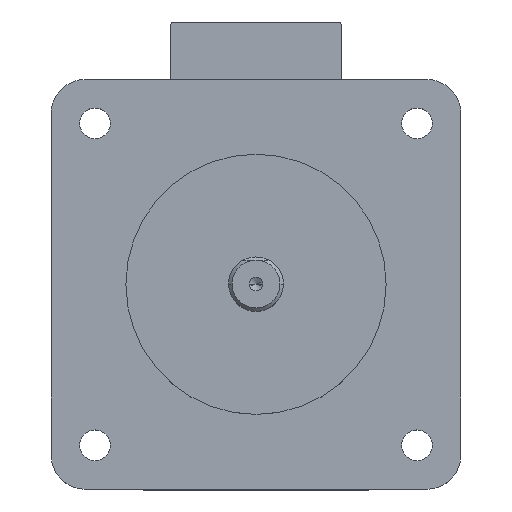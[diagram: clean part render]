
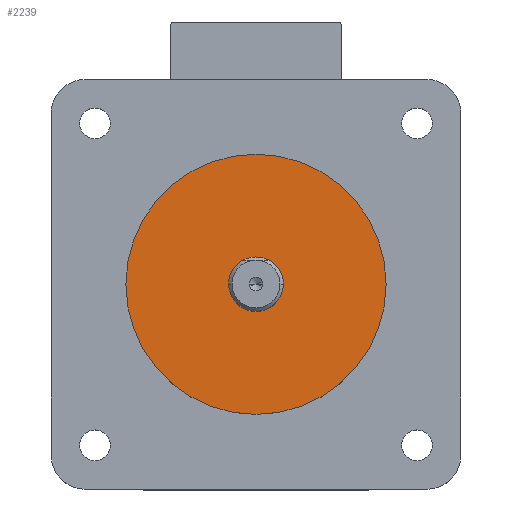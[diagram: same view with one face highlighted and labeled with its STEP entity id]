
A CAD part, top view. The second image highlights one B-rep face of the part: STEP entity #2239.
In plain terms, the highlighted planar face has unit normal (0, 0, 1).
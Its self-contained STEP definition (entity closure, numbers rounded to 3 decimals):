
#376 = AXIS2_PLACEMENT_3D ( 'NONE', #2300, #2295, #2284 ) ;
#384 = AXIS2_PLACEMENT_3D ( 'NONE', #2314, #2312, #2308 ) ;
#483 = DIRECTION ( 'NONE',  ( 1., 0., 0. ) ) ;
#487 = DIRECTION ( 'NONE',  ( 0., 0., 1. ) ) ;
#499 = CARTESIAN_POINT ( 'NONE',  ( 0., 0., 2.5 ) ) ;
#616 = AXIS2_PLACEMENT_3D ( 'NONE', #2001, #1998, #1980 ) ;
#619 = PLANE ( 'NONE',  #1049 ) ;
#652 = AXIS2_PLACEMENT_3D ( 'NONE', #2570, #2538, #2518 ) ;
#784 = VERTEX_POINT ( 'NONE', #3903 ) ;
#1049 = AXIS2_PLACEMENT_3D ( 'NONE', #499, #487, #483 ) ;
#1373 = VERTEX_POINT ( 'NONE', #2129 ) ;
#1386 = CIRCLE ( 'NONE', #376, 4. ) ;
#1697 = FACE_OUTER_BOUND ( 'NONE', #4120, .T. ) ;
#1980 = DIRECTION ( 'NONE',  ( 1., 0., 0. ) ) ;
#1998 = DIRECTION ( 'NONE',  ( 0., 0., 1. ) ) ;
#2001 = CARTESIAN_POINT ( 'NONE',  ( 0., 0., 2.5 ) ) ;
#2129 = CARTESIAN_POINT ( 'NONE',  ( -4., 0., 2.5 ) ) ;
#2155 = CIRCLE ( 'NONE', #616, 19.05 ) ;
#2239 = ADVANCED_FACE ( 'NONE', ( #1697, #2549 ), #619, .T. ) ;
#2284 = DIRECTION ( 'NONE',  ( 1., 0., 0. ) ) ;
#2295 = DIRECTION ( 'NONE',  ( 0., 0., -1. ) ) ;
#2300 = CARTESIAN_POINT ( 'NONE',  ( 0., 0., 2.5 ) ) ;
#2308 = DIRECTION ( 'NONE',  ( 1., 0., 0. ) ) ;
#2312 = DIRECTION ( 'NONE',  ( 0., 0., 1. ) ) ;
#2314 = CARTESIAN_POINT ( 'NONE',  ( 0., 0., 2.5 ) ) ;
#2518 = DIRECTION ( 'NONE',  ( 1., 0., 0. ) ) ;
#2538 = DIRECTION ( 'NONE',  ( 0., 0., -1. ) ) ;
#2549 = FACE_BOUND ( 'NONE', #4126, .T. ) ;
#2570 = CARTESIAN_POINT ( 'NONE',  ( 0., 0., 2.5 ) ) ;
#2734 = VERTEX_POINT ( 'NONE', #3763 ) ;
#2787 = EDGE_CURVE ( 'NONE', #1373, #2734, #4009, .T. ) ;
#2830 = EDGE_CURVE ( 'NONE', #3107, #784, #2155, .T. ) ;
#3107 = VERTEX_POINT ( 'NONE', #3898 ) ;
#3330 = ORIENTED_EDGE ( 'NONE', *, *, #3478, .T. ) ;
#3334 = ORIENTED_EDGE ( 'NONE', *, *, #2830, .T. ) ;
#3382 = ORIENTED_EDGE ( 'NONE', *, *, #2787, .T. ) ;
#3384 = ORIENTED_EDGE ( 'NONE', *, *, #3479, .T. ) ;
#3478 = EDGE_CURVE ( 'NONE', #784, #3107, #4028, .T. ) ;
#3479 = EDGE_CURVE ( 'NONE', #2734, #1373, #1386, .T. ) ;
#3763 = CARTESIAN_POINT ( 'NONE',  ( 4., 0., 2.5 ) ) ;
#3898 = CARTESIAN_POINT ( 'NONE',  ( 19.05, 0., 2.5 ) ) ;
#3903 = CARTESIAN_POINT ( 'NONE',  ( -19.05, 0., 2.5 ) ) ;
#4009 = CIRCLE ( 'NONE', #652, 4. ) ;
#4028 = CIRCLE ( 'NONE', #384, 19.05 ) ;
#4120 = EDGE_LOOP ( 'NONE', ( #3330, #3334 ) ) ;
#4126 = EDGE_LOOP ( 'NONE', ( #3382, #3384 ) ) ;
